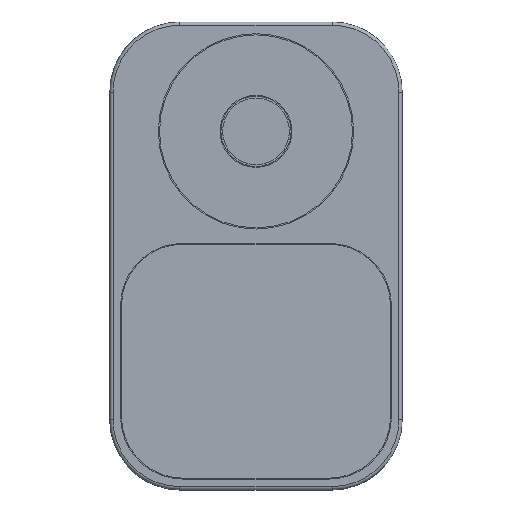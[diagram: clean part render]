
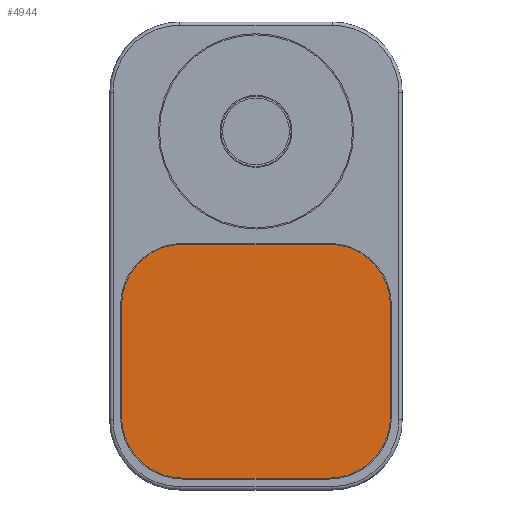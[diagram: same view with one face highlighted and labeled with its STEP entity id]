
A CAD part, top view. The second image highlights one B-rep face of the part: STEP entity #4944.
In plain terms, the highlighted planar face has unit normal (0, 0, 1).
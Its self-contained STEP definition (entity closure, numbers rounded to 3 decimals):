
#4695 = VERTEX_POINT('',#4696);
#4696 = CARTESIAN_POINT('',(12.5,2.,14.2));
#4712 = VERTEX_POINT('',#4713);
#4713 = CARTESIAN_POINT('',(2.,12.5,14.2));
#4719 = EDGE_CURVE('',#4712,#4695,#4720,.T.);
#4720 = CIRCLE('',#4721,10.5);
#4721 = AXIS2_PLACEMENT_3D('',#4722,#4723,#4724);
#4722 = CARTESIAN_POINT('',(12.5,12.5,14.2));
#4723 = DIRECTION('',(0.,0.,1.));
#4724 = DIRECTION('',(1.,0.,0.));
#4743 = EDGE_CURVE('',#4695,#4744,#4746,.T.);
#4744 = VERTEX_POINT('',#4745);
#4745 = CARTESIAN_POINT('',(37.5,2.,14.2));
#4746 = LINE('',#4747,#4748);
#4747 = CARTESIAN_POINT('',(12.5,2.,14.2));
#4748 = VECTOR('',#4749,1.);
#4749 = DIRECTION('',(1.,0.,0.));
#4775 = VERTEX_POINT('',#4776);
#4776 = CARTESIAN_POINT('',(2.,31.5,14.2));
#4782 = EDGE_CURVE('',#4712,#4775,#4783,.T.);
#4783 = LINE('',#4784,#4785);
#4784 = CARTESIAN_POINT('',(2.,12.5,14.2));
#4785 = VECTOR('',#4786,1.);
#4786 = DIRECTION('',(0.,1.,0.));
#4799 = VERTEX_POINT('',#4800);
#4800 = CARTESIAN_POINT('',(48.,12.5,14.2));
#4814 = EDGE_CURVE('',#4744,#4799,#4815,.T.);
#4815 = CIRCLE('',#4816,10.5);
#4816 = AXIS2_PLACEMENT_3D('',#4817,#4818,#4819);
#4817 = CARTESIAN_POINT('',(37.5,12.5,14.2));
#4818 = DIRECTION('',(0.,0.,1.));
#4819 = DIRECTION('',(1.,0.,0.));
#4839 = VERTEX_POINT('',#4840);
#4840 = CARTESIAN_POINT('',(12.5,42.,14.2));
#4846 = EDGE_CURVE('',#4839,#4775,#4847,.T.);
#4847 = CIRCLE('',#4848,10.5);
#4848 = AXIS2_PLACEMENT_3D('',#4849,#4850,#4851);
#4849 = CARTESIAN_POINT('',(12.5,31.5,14.2));
#4850 = DIRECTION('',(0.,0.,1.));
#4851 = DIRECTION('',(1.,0.,0.));
#4871 = EDGE_CURVE('',#4839,#4872,#4874,.T.);
#4872 = VERTEX_POINT('',#4873);
#4873 = CARTESIAN_POINT('',(37.5,42.,14.2));
#4874 = LINE('',#4875,#4876);
#4875 = CARTESIAN_POINT('',(12.5,42.,14.2));
#4876 = VECTOR('',#4877,1.);
#4877 = DIRECTION('',(1.,0.,0.));
#4903 = VERTEX_POINT('',#4904);
#4904 = CARTESIAN_POINT('',(48.,31.5,14.2));
#4910 = EDGE_CURVE('',#4799,#4903,#4911,.T.);
#4911 = LINE('',#4912,#4913);
#4912 = CARTESIAN_POINT('',(48.,12.5,14.2));
#4913 = VECTOR('',#4914,1.);
#4914 = DIRECTION('',(0.,1.,0.));
#4932 = EDGE_CURVE('',#4903,#4872,#4933,.T.);
#4933 = CIRCLE('',#4934,10.5);
#4934 = AXIS2_PLACEMENT_3D('',#4935,#4936,#4937);
#4935 = CARTESIAN_POINT('',(37.5,31.5,14.2));
#4936 = DIRECTION('',(0.,0.,1.));
#4937 = DIRECTION('',(1.,0.,0.));
#4944 = ADVANCED_FACE('',(#4945),#4955,.T.);
#4945 = FACE_BOUND('',#4946,.T.);
#4946 = EDGE_LOOP('',(#4947,#4948,#4949,#4950,#4951,#4952,#4953,#4954));
#4947 = ORIENTED_EDGE('',*,*,#4719,.T.);
#4948 = ORIENTED_EDGE('',*,*,#4743,.T.);
#4949 = ORIENTED_EDGE('',*,*,#4814,.T.);
#4950 = ORIENTED_EDGE('',*,*,#4910,.T.);
#4951 = ORIENTED_EDGE('',*,*,#4932,.T.);
#4952 = ORIENTED_EDGE('',*,*,#4871,.F.);
#4953 = ORIENTED_EDGE('',*,*,#4846,.T.);
#4954 = ORIENTED_EDGE('',*,*,#4782,.F.);
#4955 = PLANE('',#4956);
#4956 = AXIS2_PLACEMENT_3D('',#4957,#4958,#4959);
#4957 = CARTESIAN_POINT('',(25.,22.,14.2));
#4958 = DIRECTION('',(0.,0.,1.));
#4959 = DIRECTION('',(1.,0.,0.));
